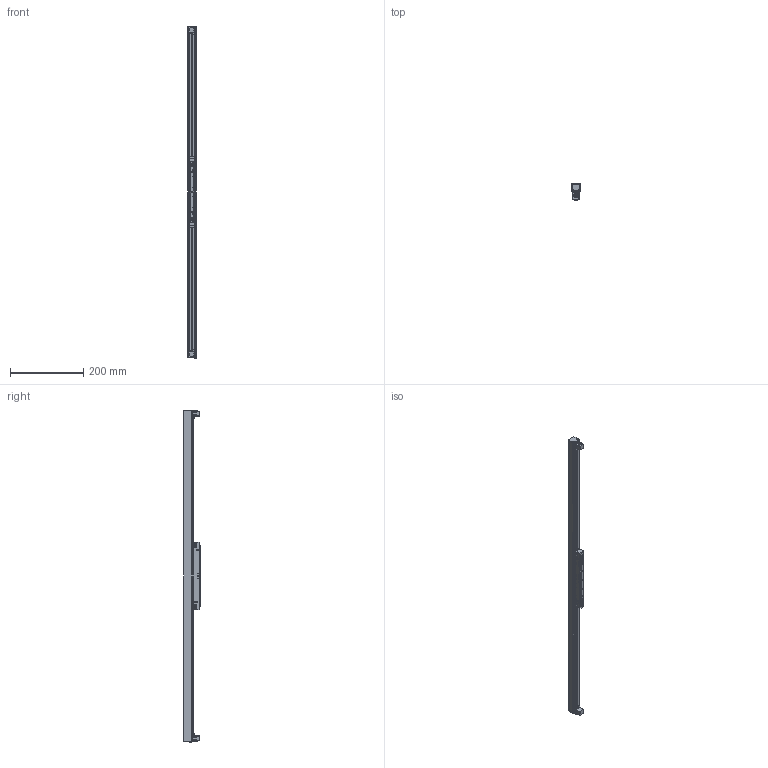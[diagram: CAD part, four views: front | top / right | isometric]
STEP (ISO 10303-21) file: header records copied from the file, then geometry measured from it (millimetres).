
FILE_DESCRIPTION (( 'STEP AP203' ), '1' );
FILE_NAME ('410100.STEP', '2025-04-02T02:28:43', ( '微软用户' ), ( '微软中国' ), 'SwSTEP 2.0', 'SolidWorks 2020', '' );
FILE_SCHEMA (( 'CONFIG_CONTROL_DESIGN' ));
Length unit declared in the file: millimetre
Products named in the file (22): 10-10-gk-2; 滓嫖腑极-900ㄗ湍怢論ㄘ; ｳﾁﾍｷﾊｮﾗﾖﾗﾔｹ･ﾂﾝﾋｿ M2.5X8; MANIFOLD_SOLID_BREP_1149; 410100; 黑芛掖蝶ㄗ湍怢論ㄘ; 安全扣：GN-CX01-10; MANIFOLD_SOLID_BREP_1150; 滓嫖黑芛ㄗ湍怢論ㄘ; 埴芛坋趼蹟佪M3X6; MANIFOLD_SOLID_BREP_1155; 臏價啣-900; MANIFOLD_SOLID_BREP_1145; MANIFOLD_SOLID_BREP_1156; PET毀嫖祧-600; MANIFOLD_SOLID_BREP_1146; 10-07-WJ1; PET毀嫖祧-300; MANIFOLD_SOLID_BREP_1147; 10-08-G1_1; 滓嫖醱欶-900; MANIFOLD_SOLID_BREP_1148
Assembly tree (30 placements, depth 3):
  410100
    滓嫖腑极-900ㄗ湍怢論ㄘ
    黑芛掖蝶ㄗ湍怢論ㄘ  x2
    滓嫖黑芛ㄗ湍怢論ㄘ  x2
    臏價啣-900
    PET毀嫖祧-600  x2
    PET毀嫖祧-300  x2
    滓嫖醱欶-900
    ｳﾁﾍｷﾊｮﾗﾖﾗﾔｹ･ﾂﾝﾋｿ M2.5X8  x4
    安全扣：GN-CX01-10  x2
    埴芛坋趼蹟佪M3X6  x2
    10-10-gk-2
      MANIFOLD_SOLID_BREP_1145
      MANIFOLD_SOLID_BREP_1146
      MANIFOLD_SOLID_BREP_1147
      MANIFOLD_SOLID_BREP_1148
      MANIFOLD_SOLID_BREP_1149
      MANIFOLD_SOLID_BREP_1150
      MANIFOLD_SOLID_BREP_1155
      MANIFOLD_SOLID_BREP_1156
      10-07-WJ1
      10-08-G1_1
Bounding box: 22 x 44.4 x 904.4 mm (x, y, z)
Volume: 214501.1 mm3; surface area: 317483.9 mm2
Topology: 33 solids, 33 shells, 3371 faces, 8745 edges, 5746 vertices
Faces by surface type: plane 2667, cylinder 497, bspline 130, cone 77
Entity records: 108483 total; most frequent: CARTESIAN_POINT 30564, ORIENTED_EDGE 16220, DIRECTION 13965, EDGE_CURVE 8110, VECTOR 6599, LINE 6599, VERTEX_POINT 5351, AXIS2_PLACEMENT_3D 3683
